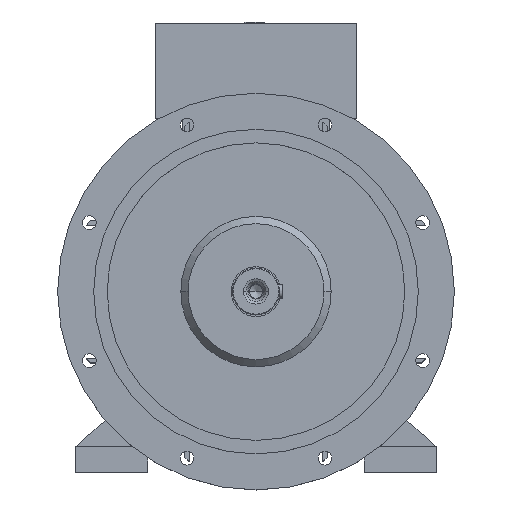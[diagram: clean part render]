
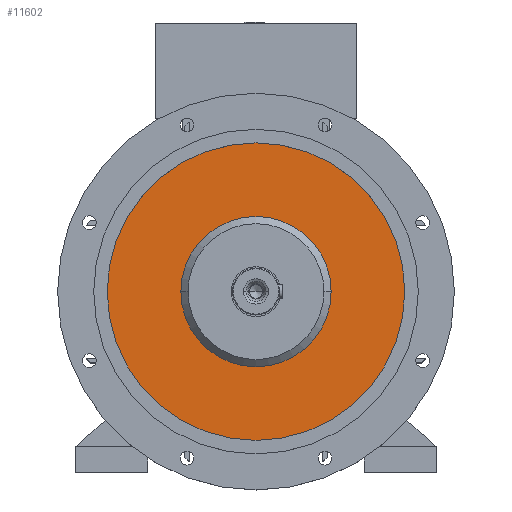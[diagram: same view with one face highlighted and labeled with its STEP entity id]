
A CAD part, top view. The second image highlights one B-rep face of the part: STEP entity #11602.
In plain terms, the highlighted planar face has unit normal (0, 0, 1).
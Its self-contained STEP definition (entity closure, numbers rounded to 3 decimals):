
#774 = VERTEX_POINT ( 'NONE', #21601 ) ;
#2070 = VERTEX_POINT ( 'NONE', #19272 ) ;
#2110 = AXIS2_PLACEMENT_3D ( 'NONE', #3563, #13807, #7306 ) ;
#3563 = CARTESIAN_POINT ( 'NONE',  ( 0., 0., 330.5 ) ) ;
#4443 = EDGE_CURVE ( 'NONE', #8842, #2070, #17603, .T. ) ;
#4712 = EDGE_CURVE ( 'NONE', #10684, #774, #7698, .T. ) ;
#4876 = DIRECTION ( 'NONE',  ( 0., 0., -1. ) ) ;
#5892 = PLANE ( 'NONE',  #11205 ) ;
#6234 = DIRECTION ( 'NONE',  ( 0., 0., 1. ) ) ;
#6584 = EDGE_LOOP ( 'NONE', ( #14370, #8144 ) ) ;
#7306 = DIRECTION ( 'NONE',  ( -1., 0., 0. ) ) ;
#7698 = CIRCLE ( 'NONE', #13686, 104.2 ) ;
#8036 = AXIS2_PLACEMENT_3D ( 'NONE', #9140, #11055, #23853 ) ;
#8144 = ORIENTED_EDGE ( 'NONE', *, *, #4712, .T. ) ;
#8842 = VERTEX_POINT ( 'NONE', #18217 ) ;
#9140 = CARTESIAN_POINT ( 'NONE',  ( 0., 0., 330.5 ) ) ;
#10404 = DIRECTION ( 'NONE',  ( 0., 0., -1. ) ) ;
#10684 = VERTEX_POINT ( 'NONE', #19666 ) ;
#11055 = DIRECTION ( 'NONE',  ( 0., 0., 1. ) ) ;
#11205 = AXIS2_PLACEMENT_3D ( 'NONE', #20430, #6234, #16638 ) ;
#11238 = CIRCLE ( 'NONE', #8036, 206.25 ) ;
#11448 = DIRECTION ( 'NONE',  ( -1., 0., 0. ) ) ;
#11602 = ADVANCED_FACE ( 'NONE', ( #23867, #15976 ), #5892, .T. ) ;
#13686 = AXIS2_PLACEMENT_3D ( 'NONE', #23122, #10404, #21171 ) ;
#13807 = DIRECTION ( 'NONE',  ( 0., 0., 1. ) ) ;
#14370 = ORIENTED_EDGE ( 'NONE', *, *, #15597, .T. ) ;
#15597 = EDGE_CURVE ( 'NONE', #774, #10684, #26685, .T. ) ;
#15976 = FACE_BOUND ( 'NONE', #6584, .T. ) ;
#16315 = EDGE_LOOP ( 'NONE', ( #20753, #19669 ) ) ;
#16638 = DIRECTION ( 'NONE',  ( 1., 0., 0. ) ) ;
#17603 = CIRCLE ( 'NONE', #2110, 206.25 ) ;
#17837 = CARTESIAN_POINT ( 'NONE',  ( 0., 0., 330.5 ) ) ;
#18217 = CARTESIAN_POINT ( 'NONE',  ( 206.25, 0., 330.5 ) ) ;
#19272 = CARTESIAN_POINT ( 'NONE',  ( -206.25, 0., 330.5 ) ) ;
#19666 = CARTESIAN_POINT ( 'NONE',  ( 104.2, 0., 330.5 ) ) ;
#19669 = ORIENTED_EDGE ( 'NONE', *, *, #4443, .T. ) ;
#20430 = CARTESIAN_POINT ( 'NONE',  ( 0., 206.25, 330.5 ) ) ;
#20753 = ORIENTED_EDGE ( 'NONE', *, *, #25673, .T. ) ;
#21171 = DIRECTION ( 'NONE',  ( -1., 0., 0. ) ) ;
#21601 = CARTESIAN_POINT ( 'NONE',  ( -104.2, 0., 330.5 ) ) ;
#23122 = CARTESIAN_POINT ( 'NONE',  ( 0., 0., 330.5 ) ) ;
#23853 = DIRECTION ( 'NONE',  ( -1., 0., 0. ) ) ;
#23867 = FACE_OUTER_BOUND ( 'NONE', #16315, .T. ) ;
#24249 = AXIS2_PLACEMENT_3D ( 'NONE', #17837, #4876, #11448 ) ;
#25673 = EDGE_CURVE ( 'NONE', #2070, #8842, #11238, .T. ) ;
#26685 = CIRCLE ( 'NONE', #24249, 104.2 ) ;
